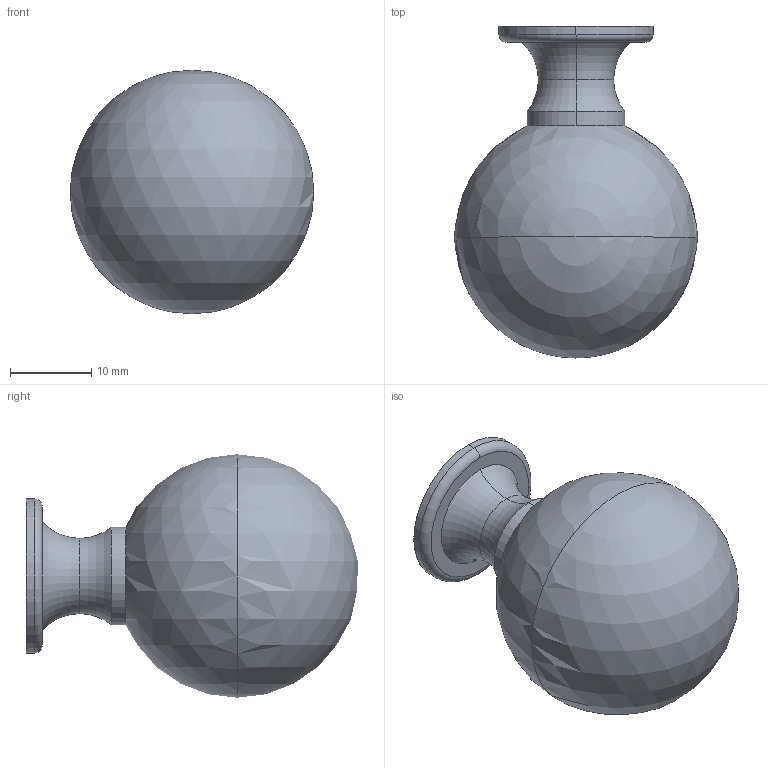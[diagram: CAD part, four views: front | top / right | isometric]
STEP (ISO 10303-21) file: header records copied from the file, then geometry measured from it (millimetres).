
FILE_DESCRIPTION( ( '' ), '1' );
FILE_NAME( 'C:/Documents and Settings/Nikhil/Desktop/Nik/Done/9070520.stp', '2013-10-24T04:55:01', ( '' ), ( '' ), ' ', ' ', ' ' );
FILE_SCHEMA( ( 'automotive_design' ) );
Length unit declared in the file: millimetre
Products named in the file (1): 1
Bounding box: 30 x 40.89 x 30 mm (x, y, z)
Volume: 15425.2 mm3; surface area: 3698.4 mm2
Topology: 1 solids, 1 shells, 17 faces, 36 edges, 20 vertices
Faces by surface type: torus 6, cylinder 6, plane 3, sphere 2
Entity records: 860 total; most frequent: DIRECTION 94, STYLED_ITEM 70, PRESENTATION_STYLE_ASSIGNMENT 70, CARTESIAN_POINT 70, COLOUR_RGB 70, ORIENTED_EDGE 64, AXIS2_PLACEMENT_3D 44, EDGE_CURVE 32
